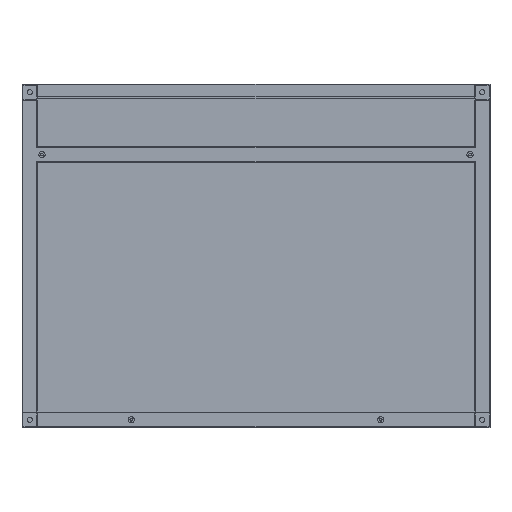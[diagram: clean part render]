
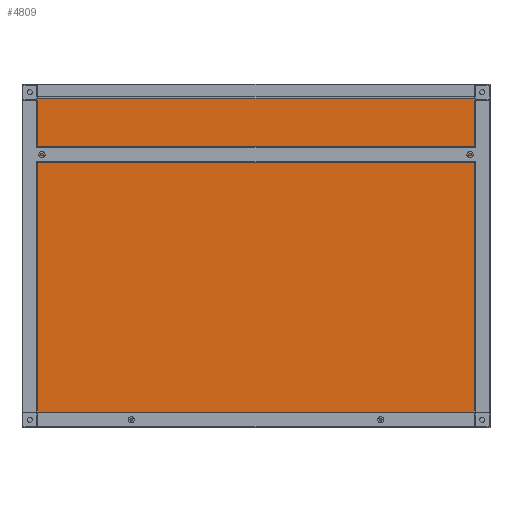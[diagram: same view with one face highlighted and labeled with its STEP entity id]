
A CAD part, front view. The second image highlights one B-rep face of the part: STEP entity #4809.
In plain terms, the highlighted planar face has unit normal (0, -1, 0) as drawn and (0, 0, -1) by its records, which use the part's own axes.
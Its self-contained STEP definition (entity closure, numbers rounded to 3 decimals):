
#8 = CARTESIAN_POINT ( 'NONE',  ( 25., 275., 0. ) ) ;
#235 = VECTOR ( 'NONE', #1119, 1000. ) ;
#428 = ORIENTED_EDGE ( 'NONE', *, *, #2064, .F. ) ;
#466 = LINE ( 'NONE', #8, #4945 ) ;
#525 = DIRECTION ( 'NONE',  ( 0., -1., 0. ) ) ;
#589 = CARTESIAN_POINT ( 'NONE',  ( 25., 275., 0. ) ) ;
#783 = VERTEX_POINT ( 'NONE', #4399 ) ;
#1119 = DIRECTION ( 'NONE',  ( 1., 0., 0. ) ) ;
#1277 = AXIS2_PLACEMENT_3D ( 'NONE', #2165, #2656, #5562 ) ;
#1352 = EDGE_CURVE ( 'NONE', #2683, #783, #5447, .T. ) ;
#1626 = FACE_OUTER_BOUND ( 'NONE', #5110, .T. ) ;
#1705 = ORIENTED_EDGE ( 'NONE', *, *, #1957, .F. ) ;
#1720 = ORIENTED_EDGE ( 'NONE', *, *, #1352, .F. ) ;
#1957 = EDGE_CURVE ( 'NONE', #783, #3708, #466, .T. ) ;
#2064 = EDGE_CURVE ( 'NONE', #4426, #2683, #2941, .T. ) ;
#2165 = CARTESIAN_POINT ( 'NONE',  ( 0., 0., 0. ) ) ;
#2257 = ORIENTED_EDGE ( 'NONE', *, *, #3053, .F. ) ;
#2455 = CARTESIAN_POINT ( 'NONE',  ( 725., 275., 0. ) ) ;
#2484 = DIRECTION ( 'NONE',  ( 0., 1., 0. ) ) ;
#2653 = CARTESIAN_POINT ( 'NONE',  ( 25., -253., 0. ) ) ;
#2656 = DIRECTION ( 'NONE',  ( 0., 0., 1. ) ) ;
#2683 = VERTEX_POINT ( 'NONE', #5159 ) ;
#2941 = LINE ( 'NONE', #2455, #6286 ) ;
#2994 = VECTOR ( 'NONE', #3996, 1000. ) ;
#3053 = EDGE_CURVE ( 'NONE', #3708, #4426, #4503, .T. ) ;
#3560 = CARTESIAN_POINT ( 'NONE',  ( 25., -253., 0. ) ) ;
#3708 = VERTEX_POINT ( 'NONE', #2653 ) ;
#3996 = DIRECTION ( 'NONE',  ( -1., 0., 0. ) ) ;
#4154 = CARTESIAN_POINT ( 'NONE',  ( 725., -253., 0. ) ) ;
#4399 = CARTESIAN_POINT ( 'NONE',  ( 25., 275., 0. ) ) ;
#4426 = VERTEX_POINT ( 'NONE', #4154 ) ;
#4503 = LINE ( 'NONE', #3560, #235 ) ;
#4809 = ADVANCED_FACE ( 'NONE', ( #1626 ), #5528, .F. ) ;
#4945 = VECTOR ( 'NONE', #525, 1000. ) ;
#5110 = EDGE_LOOP ( 'NONE', ( #1705, #1720, #428, #2257 ) ) ;
#5159 = CARTESIAN_POINT ( 'NONE',  ( 725., 275., 0. ) ) ;
#5447 = LINE ( 'NONE', #589, #2994 ) ;
#5528 = PLANE ( 'NONE',  #1277 ) ;
#5562 = DIRECTION ( 'NONE',  ( 1., 0., 0. ) ) ;
#6286 = VECTOR ( 'NONE', #2484, 1000. ) ;
